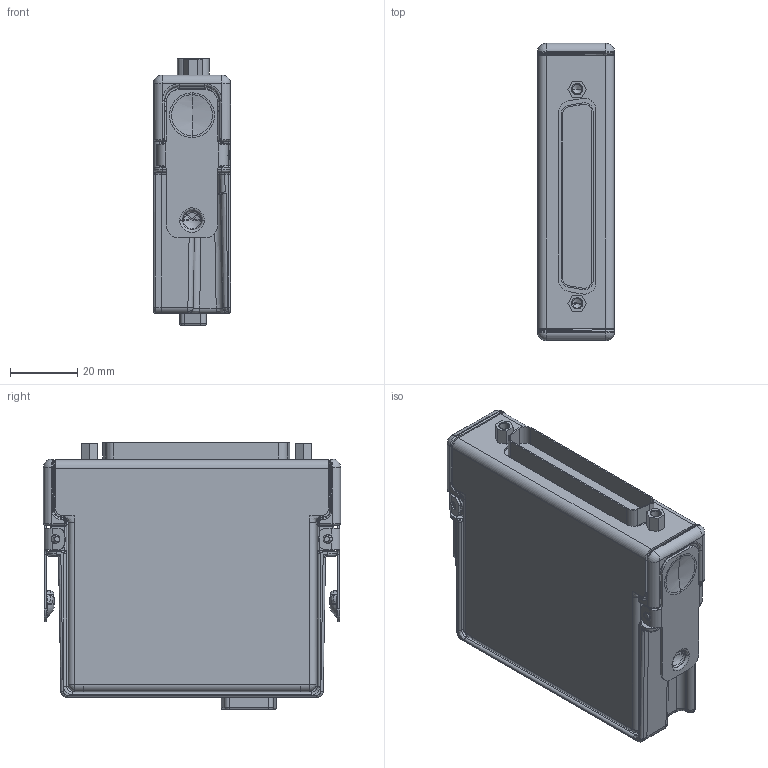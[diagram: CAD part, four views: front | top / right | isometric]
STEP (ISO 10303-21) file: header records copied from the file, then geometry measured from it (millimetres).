
FILE_DESCRIPTION((''),'2;1');
FILE_NAME('CART_CRIO_DB_37_LVL6','2007-01-24T',('chrisj'),(''),'PRO/ENGINEER BY PARAMETRIC TECHNOLOGY CORPORATION, 2006080','PRO/ENGINEER BY PARAMETRIC TECHNOLOGY CORPORATION, 2006080','');
FILE_SCHEMA(('AUTOMOTIVE_DESIGN_CC2 { 1 2 10303 214 -1 1 5 2 }'));
Products named in the file (1): CART_CRIO_DB_37_LVL6
Bounding box: 22.86 x 88.11 x 79.15 mm (x, y, z)
Volume: 47091.4 mm3; surface area: 49265.9 mm2
Topology: 13 solids, 13 shells, 1575 faces, 3729 edges, 2196 vertices
Faces by surface type: cylinder 542, plane 499, bspline 365, cone 64, torus 60, sphere 39, extrusion 6
Entity records: 64890 total; most frequent: CARTESIAN_POINT 31438, ORIENTED_EDGE 7306, DIRECTION 6273, EDGE_CURVE 3653, AXIS2_PLACEMENT_3D 2308, VERTEX_POINT 2234, EDGE_LOOP 1697, VECTOR 1657
